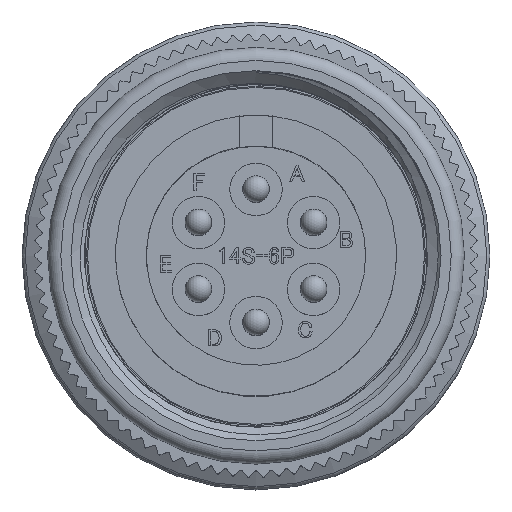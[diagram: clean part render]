
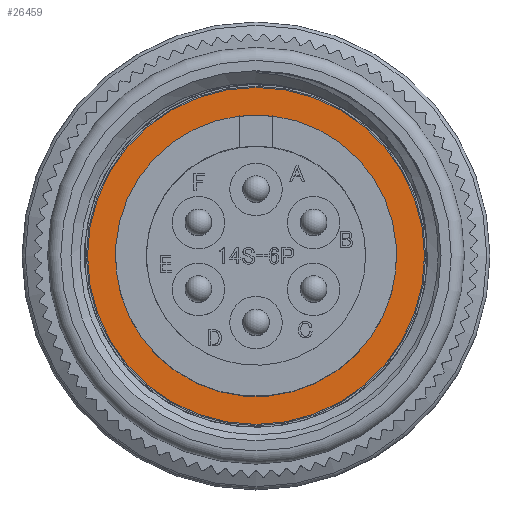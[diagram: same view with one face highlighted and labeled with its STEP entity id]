
A CAD part, top view. The second image highlights one B-rep face of the part: STEP entity #26459.
In plain terms, the highlighted planar face has unit normal (0, 0, 1).
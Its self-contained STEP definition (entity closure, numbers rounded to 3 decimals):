
#367 = CIRCLE ( 'NONE', #5562, 8.57 ) ;
#675 = EDGE_CURVE ( 'NONE', #30156, #30156, #15524, .T. ) ;
#1221 = DIRECTION ( 'NONE',  ( 1., 0., 0. ) ) ;
#4309 = CARTESIAN_POINT ( 'NONE',  ( 0., 0., -11.89 ) ) ;
#5562 = AXIS2_PLACEMENT_3D ( 'NONE', #4309, #15756, #1221 ) ;
#8196 = AXIS2_PLACEMENT_3D ( 'NONE', #30249, #21464, #33213 ) ;
#10248 = AXIS2_PLACEMENT_3D ( 'NONE', #31462, #14174, #16998 ) ;
#10545 = PLANE ( 'NONE',  #35203 ) ;
#10586 = EDGE_CURVE ( 'NONE', #12537, #36868, #26841, .T. ) ;
#10796 = CARTESIAN_POINT ( 'NONE',  ( -1.015, 8.51, -11.89 ) ) ;
#12537 = VERTEX_POINT ( 'NONE', #10796 ) ;
#13284 = FACE_OUTER_BOUND ( 'NONE', #19263, .T. ) ;
#14174 = DIRECTION ( 'NONE',  ( 0., 0., 1. ) ) ;
#14248 = CARTESIAN_POINT ( 'NONE',  ( 1.015, 8.51, -11.89 ) ) ;
#15524 = CIRCLE ( 'NONE', #10248, 10.27 ) ;
#15756 = DIRECTION ( 'NONE',  ( 0., 0., 1. ) ) ;
#16669 = DIRECTION ( 'NONE',  ( 0., 0., -1. ) ) ;
#16998 = DIRECTION ( 'NONE',  ( 1., 0., 0. ) ) ;
#19076 = ORIENTED_EDGE ( 'NONE', *, *, #35604, .F. ) ;
#19263 = EDGE_LOOP ( 'NONE', ( #31067 ) ) ;
#19574 = ORIENTED_EDGE ( 'NONE', *, *, #10586, .F. ) ;
#19646 = DIRECTION ( 'NONE',  ( -1., 0., 0. ) ) ;
#21464 = DIRECTION ( 'NONE',  ( 0., 0., 1. ) ) ;
#22267 = EDGE_LOOP ( 'NONE', ( #19076, #19574 ) ) ;
#26459 = ADVANCED_FACE ( 'NONE', ( #38221, #13284 ), #10545, .F. ) ;
#26841 = CIRCLE ( 'NONE', #8196, 8.57 ) ;
#30156 = VERTEX_POINT ( 'NONE', #32009 ) ;
#30249 = CARTESIAN_POINT ( 'NONE',  ( 0., 0., -11.89 ) ) ;
#31067 = ORIENTED_EDGE ( 'NONE', *, *, #675, .T. ) ;
#31462 = CARTESIAN_POINT ( 'NONE',  ( 0., 0., -11.89 ) ) ;
#32009 = CARTESIAN_POINT ( 'NONE',  ( 10.27, 0., -11.89 ) ) ;
#33213 = DIRECTION ( 'NONE',  ( 1., 0., 0. ) ) ;
#35203 = AXIS2_PLACEMENT_3D ( 'NONE', #37328, #16669, #19646 ) ;
#35604 = EDGE_CURVE ( 'NONE', #36868, #12537, #367, .T. ) ;
#36868 = VERTEX_POINT ( 'NONE', #14248 ) ;
#37328 = CARTESIAN_POINT ( 'NONE',  ( 0., 10.27, -11.89 ) ) ;
#38221 = FACE_BOUND ( 'NONE', #22267, .T. ) ;
